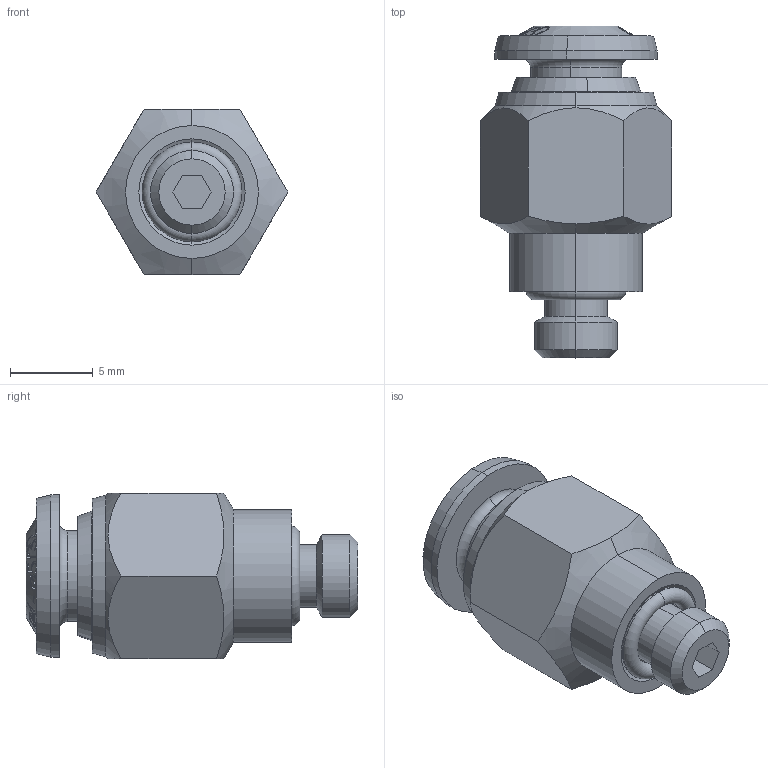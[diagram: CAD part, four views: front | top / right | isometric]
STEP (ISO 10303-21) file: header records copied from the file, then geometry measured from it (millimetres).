
FILE_DESCRIPTION (( 'STEP AP214' ), '1' );
FILE_NAME ('5002000001.step', '2012-10-01T16:40:32', ( '' ), ( '' ), 'SwSTEP 2.0', 'SolidWorks 2012', '' );
FILE_SCHEMA (( 'AUTOMOTIVE_DESIGN' ));
Length unit declared in the file: millimetre
Products named in the file (1): 5002000001
Bounding box: 11.55 x 20 x 10 mm (x, y, z)
Volume: 1017.8 mm3; surface area: 1018.5 mm2
Topology: 1 solids, 2 shells, 217 faces, 532 edges, 342 vertices
Faces by surface type: bspline 116, cone 40, plane 25, cylinder 22, torus 14
Entity records: 13118 total; most frequent: CARTESIAN_POINT 6565, ORIENTED_EDGE 1064, EDGE_CURVE 532, DIRECTION 468, B_SPLINE_CURVE_WITH_KNOTS 364, VERTEX_POINT 342, EDGE_LOOP 242, UNCERTAINTY_MEASURE_WITH_UNIT 220
